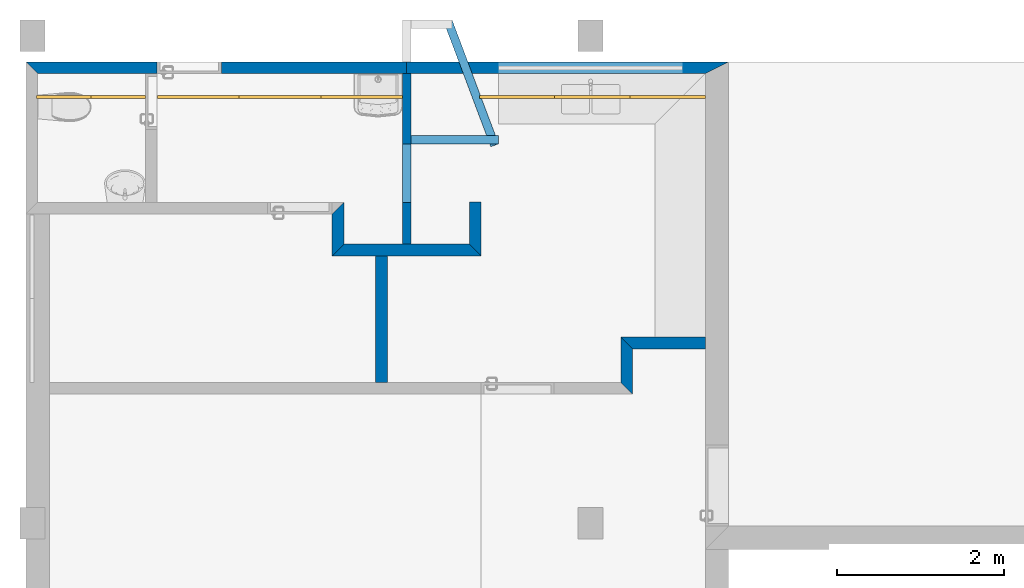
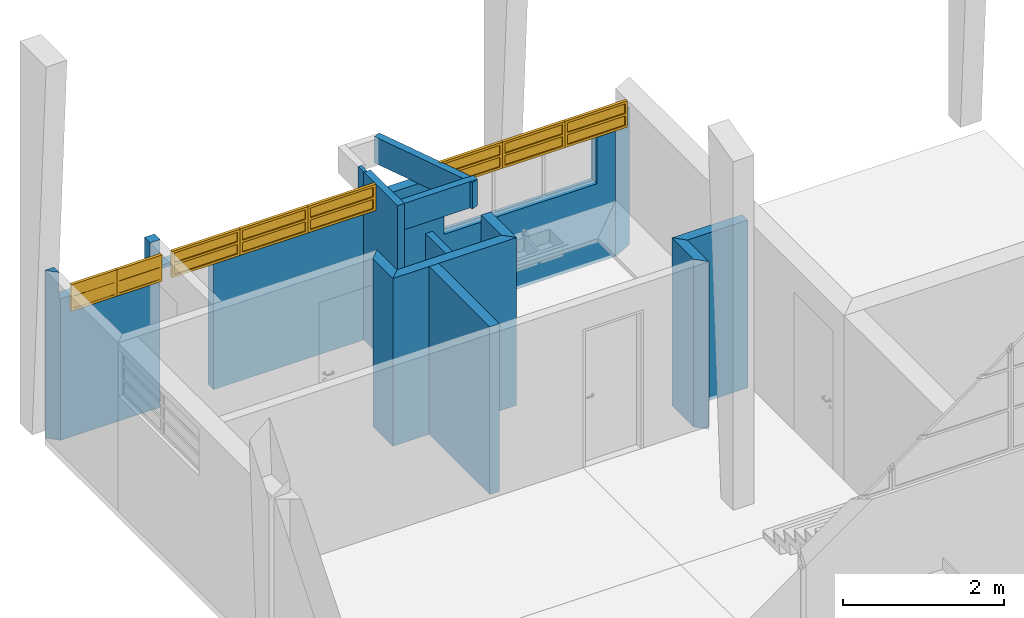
# One storey, part 6 of 16: 11 walls, 8 windows, 11 openings.
"""IFC2X3 building model written with IfcOpenShell, lengths in millimetres."""

from ifc_helpers import new_model, entity, si_unit, converted_unit, derived_unit, money_unit, direction, frame, origin_with_axes, origin_2d_with_axis, place, context, subcontext, project, spatial, polyline, rectangle, outline, extrude, open_shell, faceted_brep, surface_model, source, transform, mapped, material, layer, layer_set, layer_usage, type_object, element, fill, save


model = new_model("IFC2X3")

# Units and contexts
model_context = context("Model", 3, precision=0.01, world=origin_with_axes(), true_north=direction((0.293984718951, 0.955810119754)))
body_context = subcontext(model_context, "Body", "Model", "MODEL_VIEW")
ifc_project = project(units=[si_unit("LENGTHUNIT", "METRE", prefix="MILLI"), si_unit("AREAUNIT", "SQUARE_METRE"), si_unit("VOLUMEUNIT", "CUBIC_METRE"), converted_unit("PLANEANGLEUNIT", "DEGREE", entity("IfcPlaneAngleMeasure", 0.0174532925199), si_unit("PLANEANGLEUNIT", "RADIAN"), dimensions=[0, 0, 0, 0, 0, 0, 0]), si_unit("SOLIDANGLEUNIT", "STERADIAN"), money_unit("USD"), converted_unit("TIMEUNIT", "Year", entity("IfcTimeMeasure", 31556926.0), si_unit("TIMEUNIT", "SECOND"), dimensions=[0, 0, 1, 0, 0, 0, 0]), si_unit("MASSUNIT", "GRAM", prefix="KILO"), si_unit("THERMODYNAMICTEMPERATUREUNIT", "DEGREE_CELSIUS"), si_unit("LUMINOUSINTENSITYUNIT", "LUMEN"), si_unit("ENERGYUNIT", "JOULE", prefix="MEGA"), derived_unit("THERMALCONDUCTANCEUNIT", [(si_unit("POWERUNIT", "WATT"), 1), (si_unit("LENGTHUNIT", "METRE"), -1), (si_unit("THERMODYNAMICTEMPERATUREUNIT", "KELVIN"), -1)]), derived_unit("SPECIFICHEATCAPACITYUNIT", [(si_unit("ENERGYUNIT", "JOULE"), 1), (si_unit("MASSUNIT", "GRAM", prefix="KILO"), -1), (si_unit("THERMODYNAMICTEMPERATUREUNIT", "KELVIN"), -1)]), derived_unit("MASSDENSITYUNIT", [(si_unit("MASSUNIT", "GRAM", prefix="KILO"), 1), (si_unit("VOLUMEUNIT", "CUBIC_METRE"), -1)])], contexts=[model_context])

# Site, building, storey
site_placement = place(None, origin_with_axes())
site = spatial("IfcSite", under=ifc_project, at=site_placement, Name="Local", CompositionType="ELEMENT")
building_placement = place(site_placement, origin_with_axes())
building = spatial("IfcBuilding", under=site, at=building_placement, Name="Construção", CompositionType="ELEMENT")
storey_placement = place(building_placement, origin_with_axes())
storey = spatial("IfcBuildingStorey", under=building, at=storey_placement, Name="Pavimento Térreo", CompositionType="ELEMENT", Elevation=0.0)

# Wall, openings, windows
ifc_material_1 = material(Name="Reboco (1)")
ifc_layer_1 = layer(ifc_material_1, 20.0, ventilated="UNKNOWN")
ifc_material_2 = material(Name="Tijolo - Estrutural (1)")
ifc_layer_2 = layer(ifc_material_2, 100.0, ventilated="UNKNOWN")
ifc_layer_3 = layer(ifc_material_1, 20.0, ventilated="UNKNOWN")
ifc_layer_set_1 = layer_set([ifc_layer_1, ifc_layer_2, ifc_layer_3], Name="Alvenaria Tijolo Maciço com Revestimento 14cm")
ifc_layer_usage_1 = layer_usage(ifc_layer_set_1, "AXIS2", "NEGATIVE", 0.0)
wall_type_1 = type_object("IfcWallType", Name="Alvenaria Tijolo Maciço com Revestimento 14cm 140", PredefinedType="NOTDEFINED")
wall_1_placement = place(storey_placement, frame((7079.64507267, 12800.6321979, 50.0), z_axis=(0.0, 0.0, 1.0), x_axis=(1.0, 0.0, 0.0)))
wall_1 = element("IfcWallStandardCase", 1, at=wall_1_placement, inside=storey, type_object=wall_type_1, material=ifc_layer_usage_1, Name="Parede", context=body_context, shape_type="SweptSolid", body=[
    extrude(outline(polyline([(140.0, -140.0), (4550.0, -140.0), (4550.0, 0.0), (0.0, 0.0), (140.0, -140.0)])), origin_with_axes(), (0.0, 0.0, 1.0), 2550.0),
])
opening_1_placement = place(wall_1_placement, frame((4012.5, -9.55502343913e-09, 2150.0), z_axis=(0.0, 0.0, 1.0), x_axis=(1.0, 0.0, 0.0)))
opening_1 = element("IfcOpeningElement", 2, at=opening_1_placement, cuts=wall_1, Name="J04", context=body_context, shape_type="SweptSolid", body=[
    extrude(rectangle(XDim=975.0, YDim=400.0, at=origin_2d_with_axis()), frame((6.18172180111e-10, -399.99999999, 200.0), z_axis=(0.0, -1.0, 0.0), x_axis=(-1.0, 0.0, 0.0)), (0.0, 0.0, -1.0), 540.0),
    extrude(rectangle(XDim=975.0, YDim=400.0, at=origin_2d_with_axis()), frame((6.18172180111e-10, -399.99999999, 200.0), z_axis=(0.0, 1.0, 0.0), x_axis=(-1.0, 0.0, 0.0)), (0.0, 0.0, -1.0), 400.0),
])
opening_2_placement = place(wall_1_placement, frame((1105.0, -2.63078447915e-09, 2150.0), z_axis=(0.0, 0.0, 1.0), x_axis=(1.0, 0.0, 0.0)))
opening_2 = element("IfcOpeningElement", 3, at=opening_2_placement, cuts=wall_1, Name="J05", context=body_context, shape_type="SweptSolid", body=[
    extrude(rectangle(XDim=650.0, YDim=400.0, at=origin_2d_with_axis()), frame((6.18172180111e-10, -399.999999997, 200.0), z_axis=(0.0, -1.0, 0.0), x_axis=(1.0, 0.0, 0.0)), (0.0, 0.0, -1.0), 540.0),
    extrude(rectangle(XDim=650.0, YDim=400.0, at=origin_2d_with_axis()), frame((6.18172180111e-10, -399.999999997, 200.0), z_axis=(0.0, 1.0, 0.0), x_axis=(1.0, 0.0, 0.0)), (0.0, 0.0, -1.0), 400.0),
])
opening_3_placement = place(wall_1_placement, frame((455.0, -1.08357767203e-09, 2150.0), z_axis=(0.0, 0.0, 1.0), x_axis=(1.0, 0.0, 0.0)))
opening_3 = element("IfcOpeningElement", 4, at=opening_3_placement, cuts=wall_1, Name="J05", context=body_context, shape_type="SweptSolid", body=[
    extrude(rectangle(XDim=650.0, YDim=400.0, at=origin_2d_with_axis()), frame((6.19060358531e-10, -399.999999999, 200.0), z_axis=(0.0, -1.0, 0.0), x_axis=(1.0, 0.0, 0.0)), (0.0, 0.0, -1.0), 540.0),
    extrude(rectangle(XDim=650.0, YDim=400.0, at=origin_2d_with_axis()), frame((6.19060358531e-10, -399.999999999, 200.0), z_axis=(0.0, 1.0, 0.0), x_axis=(1.0, 0.0, 0.0)), (0.0, 0.0, -1.0), 400.0),
])
opening_4_placement = place(wall_1_placement, frame((3037.5, -7.23332505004e-09, 2150.0), z_axis=(0.0, 0.0, 1.0), x_axis=(1.0, 0.0, 0.0)))
opening_4 = element("IfcOpeningElement", 5, at=opening_4_placement, cuts=wall_1, Name="J04", context=body_context, shape_type="SweptSolid", body=[
    extrude(rectangle(XDim=975.0, YDim=400.0, at=origin_2d_with_axis()), frame((6.18172180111e-10, -399.999999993, 200.0), z_axis=(0.0, -1.0, 0.0), x_axis=(-1.0, 0.0, 0.0)), (0.0, 0.0, -1.0), 540.0),
    extrude(rectangle(XDim=975.0, YDim=400.0, at=origin_2d_with_axis()), frame((6.18172180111e-10, -399.999999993, 200.0), z_axis=(0.0, 1.0, 0.0), x_axis=(-1.0, 0.0, 0.0)), (0.0, 0.0, -1.0), 400.0),
])
opening_5_placement = place(wall_1_placement, frame((2062.5, -4.91162666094e-09, 2150.0), z_axis=(0.0, 0.0, 1.0), x_axis=(1.0, 0.0, 0.0)))
opening_5 = element("IfcOpeningElement", 6, at=opening_5_placement, cuts=wall_1, Name="J04", context=body_context, shape_type="SweptSolid", body=[
    extrude(rectangle(XDim=975.0, YDim=400.0, at=origin_2d_with_axis()), frame((6.18172180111e-10, -399.999999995, 200.0), z_axis=(0.0, -1.0, 0.0), x_axis=(-1.0, 0.0, 0.0)), (0.0, 0.0, -1.0), 540.0),
    extrude(rectangle(XDim=975.0, YDim=400.0, at=origin_2d_with_axis()), frame((6.18172180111e-10, -399.999999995, 200.0), z_axis=(0.0, 1.0, 0.0), x_axis=(-1.0, 0.0, 0.0)), (0.0, 0.0, -1.0), 400.0),
])
opening_6_placement = place(wall_1_placement, frame((1955.0, -4.65583127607e-09, 0.0), z_axis=(0.0, 0.0, 1.0), x_axis=(1.0, 0.0, 0.0)))
element("IfcOpeningElement", 7, at=opening_6_placement, cuts=wall_1, Name="P03", context=body_context, shape_type="SweptSolid", body=[
    extrude(rectangle(XDim=770.0, YDim=2100.0, at=origin_2d_with_axis()), frame((0.0, -140.0, 1050.0), z_axis=(0.0, -1.0, 0.0), x_axis=(1.0, 0.0, 0.0)), (0.0, 0.0, -1.0), 420.0),
])
window_style = type_object("IfcWindowStyle", Name="Janela Multi-Caixilho Vertical 23", ConstructionType="NOTDEFINED", OperationType="DOUBLE_PANEL_HORIZONTAL", ParameterTakesPrecedence=False, Sizeable=False)
shared_shape_1 = source(origin_with_axes(), body_context, "Body", "SurfaceModel", [
    faceted_brep([(-452.5, -40.0, 365.0), (-452.5, 0.0, 365.0), (-487.5, 0.0, 365.0), (-487.5, -40.0, 365.0), (-452.5, -40.0, 217.5), (-452.5, 0.0, 217.5), (-452.5, 0.0, 182.5), (-452.5, 0.0, 35.0), (-487.5, 0.0, 35.0), (-487.5, -40.0, 35.0), (-452.5, -40.0, 35.0), (-452.5, -40.0, 182.5)], [[[0, 1, 2, 3]], [[4, 5, 1, 0]], [[1, 5, 6, 7, 8, 2]], [[3, 2, 8, 9]], [[0, 3, 9, 10, 11, 4]], [[11, 6, 5, 4]], [[10, 7, 6, 11]], [[9, 8, 7, 10]]]),
    faceted_brep([(452.5, -40.0, 217.5), (452.5, 0.0, 217.5), (452.5, 0.0, 182.5), (452.5, -40.0, 182.5), (452.5, -40.0, 365.0), (452.5, 0.0, 365.0), (487.5, 0.0, 365.0), (487.5, 0.0, 35.0), (452.5, 0.0, 35.0), (452.5, -40.0, 35.0), (487.5, -40.0, 35.0), (487.5, -40.0, 365.0)], [[[0, 1, 2, 3]], [[4, 5, 1, 0]], [[1, 5, 6, 7, 8, 2]], [[3, 2, 8, 9]], [[0, 3, 9, 10, 11, 4]], [[11, 6, 5, 4]], [[10, 7, 6, 11]], [[9, 8, 7, 10]]]),
    faceted_brep([(452.5, -40.0, 365.0), (452.5, 0.0, 365.0), (487.5, 0.0, 365.0), (487.5, -40.0, 365.0), (-452.5, -40.0, 365.0), (-452.5, 0.0, 365.0), (-487.5, 0.0, 365.0), (-487.5, 0.0, 400.0), (487.5, 0.0, 400.0), (487.5, -40.0, 400.0), (-487.5, -40.0, 400.0), (-487.5, -40.0, 365.0)], [[[0, 1, 2, 3]], [[4, 5, 1, 0]], [[1, 5, 6, 7, 8, 2]], [[3, 2, 8, 9]], [[0, 3, 9, 10, 11, 4]], [[11, 6, 5, 4]], [[10, 7, 6, 11]], [[9, 8, 7, 10]]]),
    faceted_brep([(-452.5, -40.0, 35.0), (-452.5, 0.0, 35.0), (-487.5, 0.0, 35.0), (-487.5, -40.0, 35.0), (452.5, -40.0, 35.0), (452.5, 0.0, 35.0), (487.5, 0.0, 35.0), (487.5, 0.0, 0.0), (-487.5, 0.0, 0.0), (-487.5, -40.0, 0.0), (487.5, -40.0, 0.0), (487.5, -40.0, 35.0)], [[[0, 1, 2, 3]], [[4, 5, 1, 0]], [[1, 5, 6, 7, 8, 2]], [[3, 2, 8, 9]], [[0, 3, 9, 10, 11, 4]], [[11, 6, 5, 4]], [[10, 7, 6, 11]], [[9, 8, 7, 10]]]),
    faceted_brep([(452.5, -40.0, 217.5), (452.5, 0.0, 217.5), (-452.5, 0.0, 217.5), (-452.5, -40.0, 217.5), (452.5, -40.0, 182.5), (452.5, 0.0, 182.5), (-452.5, 0.0, 182.5), (-452.5, -40.0, 182.5)], [[[0, 1, 2, 3]], [[4, 5, 1, 0]], [[1, 5, 6, 2]], [[3, 2, 6, 7]], [[0, 3, 7, 4]], [[7, 6, 5, 4]]]),
    surface_model("IfcShellBasedSurfaceModel", [(-452.5, -35.0, 35.0), (452.5, -35.0, 35.0), (452.5, -35.0, 182.5), (-452.5, -35.0, 182.5)], [open_shell([[[0, 1, 2, 3]]])]),
    surface_model("IfcShellBasedSurfaceModel", [(-452.5, -15.0, 35.0), (-452.5, -15.0, 182.5), (452.5, -15.0, 182.5), (452.5, -15.0, 35.0)], [open_shell([[[0, 1, 2, 3]]])]),
    surface_model("IfcShellBasedSurfaceModel", [(-452.5, -35.0, 217.5), (452.5, -35.0, 217.5), (452.5, -35.0, 365.0), (-452.5, -35.0, 365.0)], [open_shell([[[0, 1, 2, 3]]])]),
    surface_model("IfcShellBasedSurfaceModel", [(-452.5, -15.0, 217.5), (-452.5, -15.0, 365.0), (452.5, -15.0, 365.0), (452.5, -15.0, 217.5)], [open_shell([[[0, 1, 2, 3]]])]),
])
window_1_placement = place(opening_1_placement, frame((487.5, -1.15996101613e-09, 0.0), z_axis=(0.0, 0.0, 1.0), x_axis=(-1.0, 0.0, 0.0)))
window_1 = element("IfcWindow", 8, at=window_1_placement, inside=storey, type_object=window_style, Name="J04", OverallHeight=400.0, OverallWidth=975.0, context=body_context, shape_type="MappedRepresentation", body=[
    mapped(shared_shape_1, transform((487.499999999, 439.99999999, 0.0))),
])
fill(opening_1, window_1)
window_2_placement = place(opening_4_placement, frame((487.5, -1.15996101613e-09, 0.0), z_axis=(0.0, 0.0, 1.0), x_axis=(-1.0, 0.0, 0.0)))
window_2 = element("IfcWindow", 9, at=window_2_placement, inside=storey, type_object=window_style, Name="J08", OverallHeight=400.0, OverallWidth=975.0, context=body_context, shape_type="MappedRepresentation", body=[
    mapped(shared_shape_1, transform((487.499999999, 439.999999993, 0.0))),
])
fill(opening_4, window_2)
window_3_placement = place(opening_5_placement, frame((487.5, -1.15996101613e-09, 0.0), z_axis=(0.0, 0.0, 1.0), x_axis=(-1.0, 0.0, 0.0)))
window_3 = element("IfcWindow", 10, at=window_3_placement, inside=storey, type_object=window_style, Name="J09", OverallHeight=400.0, OverallWidth=975.0, context=body_context, shape_type="MappedRepresentation", body=[
    mapped(shared_shape_1, transform((487.499999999, 439.999999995, 0.0))),
])
fill(opening_5, window_3)
shared_shape_2 = source(origin_with_axes(), body_context, "Body", "SurfaceModel", [
    faceted_brep([(-290.0, -40.0, 365.0), (-290.0, 0.0, 365.0), (-325.0, 0.0, 365.0), (-325.0, -40.0, 365.0), (-290.0, -40.0, 217.5), (-290.0, 0.0, 217.5), (-290.0, 0.0, 182.5), (-290.0, 0.0, 35.0), (-325.0, 0.0, 35.0), (-325.0, -40.0, 35.0), (-290.0, -40.0, 35.0), (-290.0, -40.0, 182.5)], [[[0, 1, 2, 3]], [[4, 5, 1, 0]], [[1, 5, 6, 7, 8, 2]], [[3, 2, 8, 9]], [[0, 3, 9, 10, 11, 4]], [[11, 6, 5, 4]], [[10, 7, 6, 11]], [[9, 8, 7, 10]]]),
    faceted_brep([(290.0, -40.0, 217.5), (290.0, 0.0, 217.5), (290.0, 0.0, 182.5), (290.0, -40.0, 182.5), (290.0, -40.0, 365.0), (290.0, 0.0, 365.0), (325.0, 0.0, 365.0), (325.0, 0.0, 35.0), (290.0, 0.0, 35.0), (290.0, -40.0, 35.0), (325.0, -40.0, 35.0), (325.0, -40.0, 365.0)], [[[0, 1, 2, 3]], [[4, 5, 1, 0]], [[1, 5, 6, 7, 8, 2]], [[3, 2, 8, 9]], [[0, 3, 9, 10, 11, 4]], [[11, 6, 5, 4]], [[10, 7, 6, 11]], [[9, 8, 7, 10]]]),
    faceted_brep([(290.0, -40.0, 365.0), (290.0, 0.0, 365.0), (325.0, 0.0, 365.0), (325.0, -40.0, 365.0), (-290.0, -40.0, 365.0), (-290.0, 0.0, 365.0), (-325.0, 0.0, 365.0), (-325.0, 0.0, 400.0), (325.0, 0.0, 400.0), (325.0, -40.0, 400.0), (-325.0, -40.0, 400.0), (-325.0, -40.0, 365.0)], [[[0, 1, 2, 3]], [[4, 5, 1, 0]], [[1, 5, 6, 7, 8, 2]], [[3, 2, 8, 9]], [[0, 3, 9, 10, 11, 4]], [[11, 6, 5, 4]], [[10, 7, 6, 11]], [[9, 8, 7, 10]]]),
    faceted_brep([(-290.0, -40.0, 35.0), (-290.0, 0.0, 35.0), (-325.0, 0.0, 35.0), (-325.0, -40.0, 35.0), (290.0, -40.0, 35.0), (290.0, 0.0, 35.0), (325.0, 0.0, 35.0), (325.0, 0.0, 0.0), (-325.0, 0.0, 0.0), (-325.0, -40.0, 0.0), (325.0, -40.0, 0.0), (325.0, -40.0, 35.0)], [[[0, 1, 2, 3]], [[4, 5, 1, 0]], [[1, 5, 6, 7, 8, 2]], [[3, 2, 8, 9]], [[0, 3, 9, 10, 11, 4]], [[11, 6, 5, 4]], [[10, 7, 6, 11]], [[9, 8, 7, 10]]]),
    faceted_brep([(290.0, -40.0, 217.5), (290.0, 0.0, 217.5), (-290.0, 0.0, 217.5), (-290.0, -40.0, 217.5), (290.0, -40.0, 182.5), (290.0, 0.0, 182.5), (-290.0, 0.0, 182.5), (-290.0, -40.0, 182.5)], [[[0, 1, 2, 3]], [[4, 5, 1, 0]], [[1, 5, 6, 2]], [[3, 2, 6, 7]], [[0, 3, 7, 4]], [[7, 6, 5, 4]]]),
    surface_model("IfcShellBasedSurfaceModel", [(-290.0, -35.0, 35.0), (290.0, -35.0, 35.0), (290.0, -35.0, 182.5), (-290.0, -35.0, 182.5)], [open_shell([[[0, 1, 2, 3]]])]),
    surface_model("IfcShellBasedSurfaceModel", [(-290.0, -15.0, 35.0), (-290.0, -15.0, 182.5), (290.0, -15.0, 182.5), (290.0, -15.0, 35.0)], [open_shell([[[0, 1, 2, 3]]])]),
    surface_model("IfcShellBasedSurfaceModel", [(-290.0, -35.0, 217.5), (290.0, -35.0, 217.5), (290.0, -35.0, 365.0), (-290.0, -35.0, 365.0)], [open_shell([[[0, 1, 2, 3]]])]),
    surface_model("IfcShellBasedSurfaceModel", [(-290.0, -15.0, 217.5), (-290.0, -15.0, 365.0), (290.0, -15.0, 365.0), (290.0, -15.0, 217.5)], [open_shell([[[0, 1, 2, 3]]])]),
])
window_4_placement = place(opening_2_placement, frame((-325.0, 7.74491581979e-10, 0.0), z_axis=(0.0, 0.0, 1.0), x_axis=(1.0, 0.0, 0.0)))
window_4 = element("IfcWindow", 11, at=window_4_placement, inside=storey, type_object=window_style, Name="J05", OverallHeight=400.0, OverallWidth=650.0, context=body_context, shape_type="MappedRepresentation", body=[
    mapped(shared_shape_2, transform((325.000000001, -399.999999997, 0.0))),
])
fill(opening_2, window_4)
window_5_placement = place(opening_3_placement, frame((-325.0, 7.74491581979e-10, 0.0), z_axis=(0.0, 0.0, 1.0), x_axis=(1.0, 0.0, 0.0)))
window_5 = element("IfcWindow", 12, at=window_5_placement, inside=storey, type_object=window_style, Name="J13", OverallHeight=400.0, OverallWidth=650.0, context=body_context, shape_type="MappedRepresentation", body=[
    mapped(shared_shape_2, transform((325.000000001, -399.999999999, 0.0))),
])
fill(opening_3, window_5)

# Walls
ifc_layer_usage_2 = layer_usage(ifc_layer_set_1, "AXIS2", "NEGATIVE", 70.0)
wall_2_placement = place(storey_placement, frame((11329.6450727, 10550.6321979, 50.0), z_axis=(0.0, 0.0, 1.0), x_axis=(0.0, -1.0, 0.0)))
element("IfcWallStandardCase", 13, at=wall_2_placement, inside=storey, type_object=wall_type_1, material=ifc_layer_usage_2, Name="Parede", context=body_context, shape_type="SweptSolid", body=[
    extrude(outline(polyline([(70.0, -70.0), (1580.0, -70.0), (1580.0, 70.0), (70.0, 70.0), (70.0, -70.0)])), origin_with_axes(), (0.0, 0.0, 1.0), 2550.0),
])
ifc_layer_usage_3 = layer_usage(ifc_layer_set_1, "AXIS2", "NEGATIVE", 70.0)
wall_3_placement = place(storey_placement, frame((10809.6450726, 11050.6321979, 50.0), z_axis=(0.0, 0.0, 1.0), x_axis=(0.0, -1.0, 0.0)))
element("IfcWallStandardCase", 14, at=wall_3_placement, inside=storey, type_object=wall_type_1, material=ifc_layer_usage_3, Name="Parede", context=body_context, shape_type="SweptSolid", body=[
    extrude(outline(polyline([(70.0, -70.0), (570.0, -70.0), (430.0, 70.0), (-70.0, 70.0), (70.0, -70.0)])), origin_with_axes(), (0.0, 0.0, 1.0), 2550.0),
])
ifc_layer_usage_4 = layer_usage(ifc_layer_set_1, "AXIS2", "NEGATIVE", 70.0)
wall_4_placement = place(storey_placement, frame((10809.6450726, 10550.6321979, 50.0), z_axis=(0.0, 0.0, 1.0), x_axis=(1.0, 0.0, 0.0)))
element("IfcWallStandardCase", 15, at=wall_4_placement, inside=storey, type_object=wall_type_1, material=ifc_layer_usage_4, Name="Parede", context=body_context, shape_type="SweptSolid", body=[
    extrude(outline(polyline([(-70.0, -70.0), (1710.00000003, -70.0), (1570.00000003, 70.0), (70.0, 70.0), (-70.0, -70.0)])), origin_with_axes(), (0.0, 0.0, 1.0), 2550.0),
])
ifc_layer_usage_5 = layer_usage(ifc_layer_set_1, "AXIS2", "NEGATIVE", 70.0)
wall_5_placement = place(storey_placement, frame((12449.6450727, 10550.6321979, 50.0), z_axis=(0.0, 0.0, 1.0), x_axis=(0.0, 1.0, 0.0)))
element("IfcWallStandardCase", 16, at=wall_5_placement, inside=storey, type_object=wall_type_1, material=ifc_layer_usage_5, Name="Parede", context=body_context, shape_type="SweptSolid", body=[
    extrude(outline(polyline([(-70.0, -70.0), (573.795547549, -70.0), (573.795547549, 70.0), (70.0, 70.0), (-70.0, -70.0)])), origin_with_axes(), (0.0, 0.0, 1.0), 2550.0),
])
ifc_layer_usage_6 = layer_usage(ifc_layer_set_1, "AXIS2", "NEGATIVE", 70.0)
wall_6_placement = place(storey_placement, frame((15479.6450727, 9440.6321979, 50.0), z_axis=(0.0, 0.0, 1.0), x_axis=(-1.0, 0.0, 0.0)))
element("IfcWallStandardCase", 17, at=wall_6_placement, inside=storey, type_object=wall_type_1, material=ifc_layer_usage_6, Name="Parede", context=body_context, shape_type="SweptSolid", body=[
    extrude(outline(polyline([(280.0, -70.0), (1290.0, -70.0), (1150.0, 70.0), (280.0, 70.0), (280.0, -70.0)])), origin_with_axes(), (0.0, 0.0, 1.0), 2550.0),
])
ifc_layer_usage_7 = layer_usage(ifc_layer_set_1, "AXIS2", "NEGATIVE", 70.0)
wall_7_placement = place(storey_placement, frame((14259.6450727, 9440.6321979, 50.0), z_axis=(0.0, 0.0, 1.0), x_axis=(0.0, -1.0, 0.0)))
element("IfcWallStandardCase", 18, at=wall_7_placement, inside=storey, type_object=wall_type_1, material=ifc_layer_usage_7, Name="Parede", context=body_context, shape_type="SweptSolid", body=[
    extrude(outline(polyline([(-70.0, -70.0), (470.0, -70.0), (610.0, 70.0), (70.0, 70.0), (-70.0, -70.0)])), origin_with_axes(), (0.0, 0.0, 1.0), 2550.0),
])

# Wall, openings, windows
ifc_layer_usage_8 = layer_usage(ifc_layer_set_1, "AXIS2", "NEGATIVE", 0.0)
wall_8_placement = place(storey_placement, frame((11629.6450727, 12800.6321979, 50.0), z_axis=(0.0, 0.0, 1.0), x_axis=(1.0, 0.0, 0.0)))
wall_8 = element("IfcWallStandardCase", 19, at=wall_8_placement, inside=storey, type_object=wall_type_1, material=ifc_layer_usage_8, Name="Parede", context=body_context, shape_type="SweptSolid", body=[
    extrude(outline(polyline([(0.0, -140.0), (3570.00000003, -140.0), (3850.00000003, 0.0), (0.0, 0.0), (0.0, -140.0)])), origin_with_axes(), (0.0, 0.0, 1.0), 2100.0),
])
opening_7_placement = place(wall_8_placement, frame((2200.0, -5.23847631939e-09, 1200.0), z_axis=(0.0, 0.0, 1.0), x_axis=(1.0, 0.0, 0.0)))
element("IfcOpeningElement", 20, at=opening_7_placement, cuts=wall_8, Name="J03", context=body_context, shape_type="SweptSolid", body=[
    extrude(rectangle(XDim=2200.0, YDim=900.0, at=origin_2d_with_axis()), frame((-2.14939177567e-10, -49.9999999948, 450.0), z_axis=(0.0, -1.0, 0.0), x_axis=(1.0, 0.0, 0.0)), (0.0, 0.0, 1.0), 230.0),
    extrude(rectangle(XDim=2200.0, YDim=900.0, at=origin_2d_with_axis()), frame((-2.14939177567e-10, -49.9999999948, 450.0), z_axis=(0.0, 1.0, 0.0), x_axis=(1.0, 0.0, 0.0)), (0.0, 0.0, 1.0), 190.0),
])
opening_8_placement = place(wall_8_placement, frame((3120.00000003, -7.42872430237e-09, 2150.0), z_axis=(0.0, 0.0, 1.0), x_axis=(1.0, 0.0, 0.0)))
opening_8 = element("IfcOpeningElement", 21, at=opening_8_placement, cuts=wall_8, Name="J04", context=body_context, shape_type="SweptSolid", body=[
    extrude(rectangle(XDim=900.0, YDim=400.0, at=origin_2d_with_axis()), frame((6.18172180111e-10, -399.999999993, 200.0), z_axis=(0.0, -1.0, 0.0), x_axis=(-1.0, 0.0, 0.0)), (0.0, 0.0, -1.0), 540.0),
    extrude(rectangle(XDim=900.0, YDim=400.0, at=origin_2d_with_axis()), frame((6.18172180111e-10, -399.999999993, 200.0), z_axis=(0.0, 1.0, 0.0), x_axis=(-1.0, 0.0, 0.0)), (0.0, 0.0, -1.0), 400.0),
])
opening_9_placement = place(wall_8_placement, frame((2220.00000003, -5.28466159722e-09, 2150.0), z_axis=(0.0, 0.0, 1.0), x_axis=(1.0, 0.0, 0.0)))
opening_9 = element("IfcOpeningElement", 22, at=opening_9_placement, cuts=wall_8, Name="J04", context=body_context, shape_type="SweptSolid", body=[
    extrude(rectangle(XDim=900.0, YDim=400.0, at=origin_2d_with_axis()), frame((6.18172180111e-10, -399.999999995, 200.0), z_axis=(0.0, -1.0, 0.0), x_axis=(-1.0, 0.0, 0.0)), (0.0, 0.0, -1.0), 540.0),
    extrude(rectangle(XDim=900.0, YDim=400.0, at=origin_2d_with_axis()), frame((6.18172180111e-10, -399.999999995, 200.0), z_axis=(0.0, 1.0, 0.0), x_axis=(-1.0, 0.0, 0.0)), (0.0, 0.0, -1.0), 400.0),
])
opening_10_placement = place(wall_8_placement, frame((1320.00000003, -3.1423752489e-09, 2150.0), z_axis=(0.0, 0.0, 1.0), x_axis=(1.0, 0.0, 0.0)))
opening_10 = element("IfcOpeningElement", 23, at=opening_10_placement, cuts=wall_8, Name="J04", context=body_context, shape_type="SweptSolid", body=[
    extrude(rectangle(XDim=900.0, YDim=400.0, at=origin_2d_with_axis()), frame((6.18172180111e-10, -399.999999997, 200.0), z_axis=(0.0, -1.0, 0.0), x_axis=(-1.0, 0.0, 0.0)), (0.0, 0.0, -1.0), 540.0),
    extrude(rectangle(XDim=900.0, YDim=400.0, at=origin_2d_with_axis()), frame((6.18172180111e-10, -399.999999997, 200.0), z_axis=(0.0, 1.0, 0.0), x_axis=(-1.0, 0.0, 0.0)), (0.0, 0.0, -1.0), 400.0),
])
shared_shape_3 = source(origin_with_axes(), body_context, "Body", "SurfaceModel", [
    faceted_brep([(-415.0, -40.0, 365.0), (-415.0, 0.0, 365.0), (-450.0, 0.0, 365.0), (-450.0, -40.0, 365.0), (-415.0, -40.0, 217.5), (-415.0, 0.0, 217.5), (-415.0, 0.0, 182.5), (-415.0, 0.0, 35.0), (-450.0, 0.0, 35.0), (-450.0, -40.0, 35.0), (-415.0, -40.0, 35.0), (-415.0, -40.0, 182.5)], [[[0, 1, 2, 3]], [[4, 5, 1, 0]], [[1, 5, 6, 7, 8, 2]], [[3, 2, 8, 9]], [[0, 3, 9, 10, 11, 4]], [[11, 6, 5, 4]], [[10, 7, 6, 11]], [[9, 8, 7, 10]]]),
    faceted_brep([(415.0, -40.0, 217.5), (415.0, 0.0, 217.5), (415.0, 0.0, 182.5), (415.0, -40.0, 182.5), (415.0, -40.0, 365.0), (415.0, 0.0, 365.0), (450.0, 0.0, 365.0), (450.0, 0.0, 35.0), (415.0, 0.0, 35.0), (415.0, -40.0, 35.0), (450.0, -40.0, 35.0), (450.0, -40.0, 365.0)], [[[0, 1, 2, 3]], [[4, 5, 1, 0]], [[1, 5, 6, 7, 8, 2]], [[3, 2, 8, 9]], [[0, 3, 9, 10, 11, 4]], [[11, 6, 5, 4]], [[10, 7, 6, 11]], [[9, 8, 7, 10]]]),
    faceted_brep([(415.0, -40.0, 365.0), (415.0, 0.0, 365.0), (450.0, 0.0, 365.0), (450.0, -40.0, 365.0), (-415.0, -40.0, 365.0), (-415.0, 0.0, 365.0), (-450.0, 0.0, 365.0), (-450.0, 0.0, 400.0), (450.0, 0.0, 400.0), (450.0, -40.0, 400.0), (-450.0, -40.0, 400.0), (-450.0, -40.0, 365.0)], [[[0, 1, 2, 3]], [[4, 5, 1, 0]], [[1, 5, 6, 7, 8, 2]], [[3, 2, 8, 9]], [[0, 3, 9, 10, 11, 4]], [[11, 6, 5, 4]], [[10, 7, 6, 11]], [[9, 8, 7, 10]]]),
    faceted_brep([(-415.0, -40.0, 35.0), (-415.0, 0.0, 35.0), (-450.0, 0.0, 35.0), (-450.0, -40.0, 35.0), (415.0, -40.0, 35.0), (415.0, 0.0, 35.0), (450.0, 0.0, 35.0), (450.0, 0.0, 0.0), (-450.0, 0.0, 0.0), (-450.0, -40.0, 0.0), (450.0, -40.0, 0.0), (450.0, -40.0, 35.0)], [[[0, 1, 2, 3]], [[4, 5, 1, 0]], [[1, 5, 6, 7, 8, 2]], [[3, 2, 8, 9]], [[0, 3, 9, 10, 11, 4]], [[11, 6, 5, 4]], [[10, 7, 6, 11]], [[9, 8, 7, 10]]]),
    faceted_brep([(415.0, -40.0, 217.5), (415.0, 0.0, 217.5), (-415.0, 0.0, 217.5), (-415.0, -40.0, 217.5), (415.0, -40.0, 182.5), (415.0, 0.0, 182.5), (-415.0, 0.0, 182.5), (-415.0, -40.0, 182.5)], [[[0, 1, 2, 3]], [[4, 5, 1, 0]], [[1, 5, 6, 2]], [[3, 2, 6, 7]], [[0, 3, 7, 4]], [[7, 6, 5, 4]]]),
    surface_model("IfcShellBasedSurfaceModel", [(-415.0, -35.0, 35.0), (415.0, -35.0, 35.0), (415.0, -35.0, 182.5), (-415.0, -35.0, 182.5)], [open_shell([[[0, 1, 2, 3]]])]),
    surface_model("IfcShellBasedSurfaceModel", [(-415.0, -15.0, 35.0), (-415.0, -15.0, 182.5), (415.0, -15.0, 182.5), (415.0, -15.0, 35.0)], [open_shell([[[0, 1, 2, 3]]])]),
    surface_model("IfcShellBasedSurfaceModel", [(-415.0, -35.0, 217.5), (415.0, -35.0, 217.5), (415.0, -35.0, 365.0), (-415.0, -35.0, 365.0)], [open_shell([[[0, 1, 2, 3]]])]),
    surface_model("IfcShellBasedSurfaceModel", [(-415.0, -15.0, 217.5), (-415.0, -15.0, 365.0), (415.0, -15.0, 365.0), (415.0, -15.0, 217.5)], [open_shell([[[0, 1, 2, 3]]])]),
])
window_6_placement = place(opening_8_placement, frame((450.0, -1.07114317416e-09, 0.0), z_axis=(0.0, 0.0, 1.0), x_axis=(-1.0, 0.0, 0.0)))
window_6 = element("IfcWindow", 24, at=window_6_placement, inside=storey, type_object=window_style, Name="J10", OverallHeight=400.0, OverallWidth=900.0, context=body_context, shape_type="MappedRepresentation", body=[
    mapped(shared_shape_3, transform((449.999999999, 439.999999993, 0.0))),
])
fill(opening_8, window_6)
window_7_placement = place(opening_9_placement, frame((450.0, -1.07114317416e-09, 0.0), z_axis=(0.0, 0.0, 1.0), x_axis=(-1.0, 0.0, 0.0)))
window_7 = element("IfcWindow", 25, at=window_7_placement, inside=storey, type_object=window_style, Name="J11", OverallHeight=400.0, OverallWidth=900.0, context=body_context, shape_type="MappedRepresentation", body=[
    mapped(shared_shape_3, transform((449.999999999, 439.999999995, 0.0))),
])
fill(opening_9, window_7)
window_8_placement = place(opening_10_placement, frame((450.0, -1.07114317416e-09, 0.0), z_axis=(0.0, 0.0, 1.0), x_axis=(-1.0, 0.0, 0.0)))
window_8 = element("IfcWindow", 26, at=window_8_placement, inside=storey, type_object=window_style, Name="J12", OverallHeight=400.0, OverallWidth=900.0, context=body_context, shape_type="MappedRepresentation", body=[
    mapped(shared_shape_3, transform((449.999999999, 439.999999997, 0.0))),
])
fill(opening_10, window_8)

# Wall, opening
ifc_layer_4 = layer(ifc_material_1, 20.0, ventilated="UNKNOWN")
ifc_layer_5 = layer(ifc_material_2, 60.0, ventilated="UNKNOWN")
ifc_layer_6 = layer(ifc_material_1, 20.0, ventilated="UNKNOWN")
ifc_layer_set_2 = layer_set([ifc_layer_4, ifc_layer_5, ifc_layer_6], Name="Alvenaria Tijolo Maciço com Revestimento 10cm")
ifc_layer_usage_9 = layer_usage(ifc_layer_set_2, "AXIS2", "NEGATIVE", 50.0)
wall_type_2 = type_object("IfcWallType", Name="Alvenaria Tijolo Maciço com Revestimento 10cm 100", PredefinedType="NOTDEFINED")
wall_9_placement = place(storey_placement, frame((11629.6450727, 12800.6321979, 50.0), z_axis=(0.0, 0.0, 1.0), x_axis=(0.0, -1.0, 0.0)))
wall_9 = element("IfcWallStandardCase", 27, at=wall_9_placement, inside=storey, type_object=wall_type_2, material=ifc_layer_usage_9, Name="Parede", context=body_context, shape_type="SweptSolid", body=[
    extrude(outline(polyline([(140.0, -50.0), (2179.99999999, -50.0), (2179.99999999, 50.0), (140.0, 50.0), (140.0, -50.0)])), origin_with_axes(), (0.0, 0.0, 1.0), 2550.0),
])
opening_11_placement = place(wall_9_placement, frame((1329.99999999, 0.0, 50.0), z_axis=(0.0, 0.0, 1.0), x_axis=(1.0, 0.0, 0.0)))
element("IfcOpeningElement", 28, at=opening_11_placement, cuts=wall_9, Name="Vão", context=body_context, shape_type="SweptSolid", body=[
    extrude(rectangle(XDim=700.0, YDim=2500.0, at=origin_2d_with_axis()), frame((0.0, -50.0, 1250.0), z_axis=(0.0, 1.0, 0.0), x_axis=(1.0, 0.0, 0.0)), (0.0, 0.0, -1.0), 100.0),
    extrude(rectangle(XDim=700.0, YDim=2500.0, at=origin_2d_with_axis()), frame((0.0, -50.0, 1250.0), z_axis=(0.0, -1.0, 0.0), x_axis=(1.0, 0.0, 0.0)), (0.0, 0.0, -1.0), 100.0),
])

# Walls
ifc_layer_usage_10 = layer_usage(ifc_layer_set_2, "AXIS2", "POSITIVE", 0.0)
wall_10_placement = place(storey_placement, frame((11629.6450727, 11820.6321979, 2200.0), z_axis=(0.0, 0.0, 1.0), x_axis=(1.0, 0.0, 0.0)))
element("IfcWallStandardCase", 29, at=wall_10_placement, inside=storey, type_object=wall_type_2, material=ifc_layer_usage_10, Name="Parede", context=body_context, shape_type="SweptSolid", body=[
    extrude(outline(polyline([(50.0, 0.0), (1100.0, 0.0), (1100.0, 100.0), (50.0, 100.0), (50.0, 0.0)])), origin_with_axes(), (0.0, 0.0, 1.0), 400.0),
])
ifc_layer_usage_11 = layer_usage(ifc_layer_set_2, "AXIS2", "POSITIVE", 0.0)
wall_11_placement = place(storey_placement, frame((12729.6450727, 11820.6321979, 2200.0), z_axis=(0.0, 0.0, 1.0), x_axis=(-0.351728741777, 0.936101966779, 0.0)))
element("IfcWallStandardCase", 30, at=wall_11_placement, inside=storey, type_object=wall_type_2, material=ifc_layer_usage_11, Name="Parede", context=body_context, shape_type="SweptSolid", body=[
    extrude(outline(polyline([(0.0, 0.0), (1581.02434618, 0.0), (1581.02434618, 100.0), (0.0, 100.0), (0.0, 0.0)])), origin_with_axes(), (0.0, 0.0, 1.0), 400.0),
])

save(model, "model.ifc")
